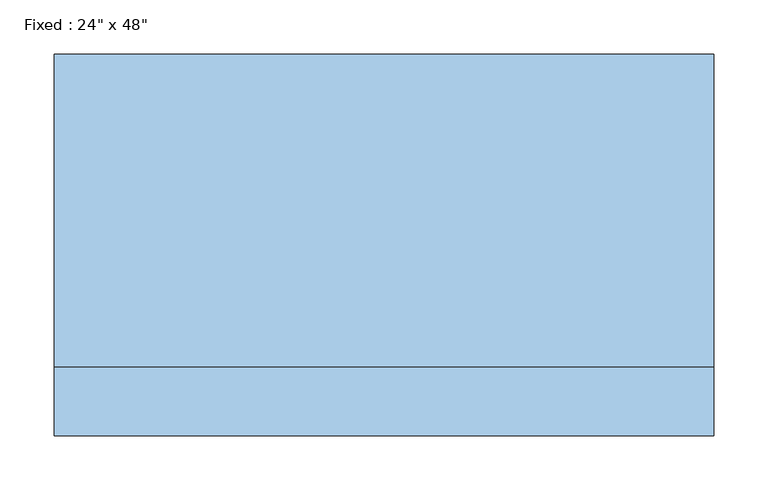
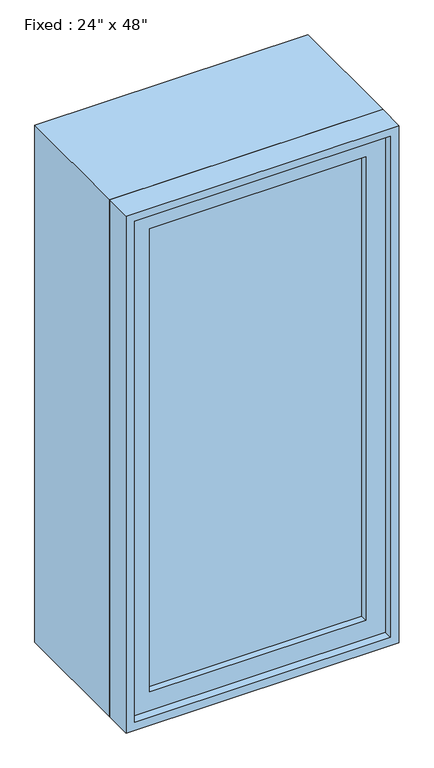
"""IFC4 building model written with IfcOpenShell, lengths in millimetres: window geometry."""

import ifcopenshell
import ifcopenshell.guid

model = None  # the IFC model being written
_history = None  # IfcOwnerHistory: only IFC2X3 demands one
_inside = {}  # id of a spatial element -> (the spatial element, [elements in it])
_under = {}  # id of a project, library or spatial element -> (it, [spatial elements below it])
_declared = {}  # id of a project -> (the project, [libraries it declares])
_typed = {}  # id of a type object -> (the type object, [elements of that type])
_made_of = {}  # id of a material, layer set ... -> (it, [elements and type objects made of it])


def new_model(schema):
    """Start an empty IFC model of exactly this schema.

    Asked for "IFC4X3", IfcOpenShell would pick the latest addendum, in which some entities
    have other attributes; the version numbers below select the first issue.
    IFC2X3 requires an IfcOwnerHistory on every rooted entity: one is made here for all.
    """
    global model, _history
    if schema == "IFC4X3":
        model = ifcopenshell.file(schema_version=(4, 3, 0, 0))
    else:
        model = ifcopenshell.file(schema=schema)
    _inside.clear()
    _under.clear()
    _declared.clear()
    _typed.clear()
    _made_of.clear()
    _history = None
    if model.schema == "IFC2X3":
        org = make("IfcOrganization", Name="unknown")
        user = make(
            "IfcPersonAndOrganization",
            ThePerson=make("IfcPerson", FamilyName="unknown"),
            TheOrganization=org,
        )
        app = make(
            "IfcApplication",
            ApplicationDeveloper=org,
            Version="unknown",
            ApplicationFullName="unknown",
            ApplicationIdentifier="unknown",
        )
        _history = make(
            "IfcOwnerHistory",
            OwningUser=user,
            OwningApplication=app,
            ChangeAction="ADDED",
            CreationDate=0,
        )
    return model


def make(cls, **values):
    """One entity of the class cls with the attributes given. An attribute that is None is left unset."""
    return model.create_entity(
        cls, **{name: value for name, value in values.items() if value is not None}
    )


def rooted(cls, **values):
    """An entity with a GlobalId (a new one), such as an element, a storey or a relation."""
    return make(cls, GlobalId=ifcopenshell.guid.new(), OwnerHistory=_history, **values)


def si_unit(unit_type, name, prefix=None):
    """IfcSIUnit, for example si_unit("LENGTHUNIT", "METRE", prefix="MILLI")."""
    return make("IfcSIUnit", UnitType=unit_type, Prefix=prefix, Name=name)


def assignment(units):
    """IfcUnitAssignment: the units of a project."""
    return None if units is None else make("IfcUnitAssignment", Units=units)


def point(xyz):
    """IfcCartesianPoint."""
    return None if xyz is None else make("IfcCartesianPoint", Coordinates=xyz)


def direction(xyz):
    """IfcDirection."""
    return None if xyz is None else make("IfcDirection", DirectionRatios=xyz)


def frame(location, z_axis=None, x_axis=None):
    """IfcAxis2Placement3D, a coordinate frame: its origin and axes. An axis left out is left unset."""
    return make(
        "IfcAxis2Placement3D",
        Location=point(location),
        Axis=direction(z_axis),
        RefDirection=direction(x_axis),
    )


def origin():
    """The frame at (0, 0, 0) with its axes left unset."""
    return frame((0.0, 0.0, 0.0))


def place(relative_to, where):
    """IfcLocalPlacement: puts the frame where relative to a parent placement (None: the world)."""
    return make(
        "IfcLocalPlacement", PlacementRelTo=relative_to, RelativePlacement=where
    )


def context(
    kind, dimensions, precision=None, world=None, true_north=None, identifier=None
):
    """IfcGeometricRepresentationContext, for example the 3D "Model" context."""
    return make(
        "IfcGeometricRepresentationContext",
        ContextIdentifier=identifier,
        ContextType=kind,
        CoordinateSpaceDimension=dimensions,
        Precision=precision,
        WorldCoordinateSystem=world,
        TrueNorth=true_north,
    )


def project(units=None, contexts=None):
    """IfcProject with its units and contexts."""
    return rooted(
        "IfcProject",
        Name="project",
        RepresentationContexts=contexts,
        UnitsInContext=assignment(units),
    )


def spatial(cls, under=None, at=None, **own):
    """A site, building, storey or space (cls), placed at a placement, below another one or the project."""
    s = rooted(cls, ObjectPlacement=at, **own)
    if under is not None:
        _under.setdefault(under.id(), (under, []))[1].append(s)
    return s


def polyline(points):
    """IfcPolyline through the points."""
    return make("IfcPolyline", Points=[point(p) for p in points])


def outline(outer, holes=None, kind="AREA"):
    """IfcArbitraryClosedProfileDef: a profile drawn as a closed curve; with holes, ...WithVoids."""
    if holes is None:
        return make("IfcArbitraryClosedProfileDef", ProfileType=kind, OuterCurve=outer)
    return make(
        "IfcArbitraryProfileDefWithVoids",
        ProfileType=kind,
        OuterCurve=outer,
        InnerCurves=holes,
    )


def extrude(swept, where, along, depth):
    """IfcExtrudedAreaSolid: the profile swept, set in the frame where, extruded along a direction by depth."""
    return make(
        "IfcExtrudedAreaSolid",
        SweptArea=swept,
        Position=where,
        ExtrudedDirection=direction(along),
        Depth=depth,
    )


def shape(context_of_items, identifier, shape_type, items):
    """IfcShapeRepresentation: the items that make up one representation, for example the "Body"."""
    return make(
        "IfcShapeRepresentation",
        ContextOfItems=context_of_items,
        RepresentationIdentifier=identifier,
        RepresentationType=shape_type,
        Items=items,
    )


def source(mapping_origin, context_of_items, identifier, shape_type, items):
    """IfcRepresentationMap: a shape defined once, which mapped items show again and again."""
    return make(
        "IfcRepresentationMap",
        MappingOrigin=mapping_origin,
        MappedRepresentation=shape(context_of_items, identifier, shape_type, items),
    )


def transform(
    local_origin,
    x_axis=None,
    y_axis=None,
    z_axis=None,
    scale=None,
    scale2=None,
    scale3=None,
    uniform=True,
):
    """IfcCartesianTransformationOperator3D, or its non-uniform kind. x_axis, y_axis, z_axis: its Axis1, 2, 3."""
    if uniform:
        return make(
            "IfcCartesianTransformationOperator3D",
            Axis1=direction(x_axis),
            Axis2=direction(y_axis),
            LocalOrigin=point(local_origin),
            Scale=scale,
            Axis3=direction(z_axis),
        )
    return make(
        "IfcCartesianTransformationOperator3DnonUniform",
        Axis1=direction(x_axis),
        Axis2=direction(y_axis),
        LocalOrigin=point(local_origin),
        Scale=scale,
        Axis3=direction(z_axis),
        Scale2=scale2,
        Scale3=scale3,
    )


def mapped(mapping_source, mapping_target):
    """IfcMappedItem: shows the shape of a source again, moved by a transform."""
    return make(
        "IfcMappedItem", MappingSource=mapping_source, MappingTarget=mapping_target
    )


def made_of(thing, what):
    """Note that an element or type object is made of a material, layer set ...; save() writes the relation."""
    if what is not None:
        _made_of.setdefault(what.id(), (what, []))[1].append(thing)
    return thing


def element(
    cls,
    number,
    at=None,
    inside=None,
    cuts=None,
    type_object=None,
    material=None,
    context=None,
    identifier="Body",
    shape_type=None,
    held_by="IfcProductDefinitionShape",
    body=None,
    shapes=None,
    **own,
):
    """One element of the class cls, such as IfcWall. Its Tag is "e" and its number.

    at: its placement. inside: the storey or other place that contains it. cuts: it is an
    opening in that element (IfcRelVoidsElement). A single representation is given by context,
    identifier, shape_type and body (its items); several are given by shapes. held_by: the class
    of the entity that holds the representations. save() writes the other relations.
    """
    e = rooted(cls, Tag="e%d" % number, ObjectPlacement=at, **own)
    if body is not None:
        shapes = [shape(context, identifier, shape_type, body)]
    if shapes is not None:
        e.Representation = make(held_by, Representations=shapes)
    if inside is not None:
        _inside.setdefault(inside.id(), (inside, []))[1].append(e)
    if cuts is not None:
        rooted(
            "IfcRelVoidsElement", RelatingBuildingElement=cuts, RelatedOpeningElement=e
        )
    if type_object is not None:
        _typed.setdefault(type_object.id(), (type_object, []))[1].append(e)
    return made_of(e, material)


def aggregate(whole, parts):
    """IfcRelAggregates: a whole, such as a stair, and the parts it consists of."""
    return rooted("IfcRelAggregates", RelatingObject=whole, RelatedObjects=parts)


def save(model, path):
    """Write the relations noted so far, then the file.

    IfcRelAggregates (storeys below a building ...), IfcRelContainedInSpatialStructure (elements
    in a storey), IfcRelDefinesByType, IfcRelAssociatesMaterial and IfcRelDeclares: one each for
    every whole, place, type object, material and project.
    """
    for whole, parts in _under.values():
        aggregate(whole, parts)
    for where, things in _inside.values():
        rooted(
            "IfcRelContainedInSpatialStructure",
            RelatedElements=things,
            RelatingStructure=where,
        )
    for kind, things in _typed.values():
        rooted("IfcRelDefinesByType", RelatedObjects=things, RelatingType=kind)
    for what, things in _made_of.values():
        rooted("IfcRelAssociatesMaterial", RelatedObjects=things, RelatingMaterial=what)
    for by, libraries in _declared.values():
        rooted("IfcRelDeclares", RelatingContext=by, RelatedDefinitions=libraries)
    model.write(path)


def window_ed80354a(model_context):
    return source(origin(), model_context, "Body", "SweptSolid", [
        extrude(outline(polyline([(203.2, -128.5875), (203.2, -141.2875), (-279.4, -141.2875), (-279.4, -128.5875), (203.2, -128.5875)])), frame((0.0, 0.0, 977.9), z_axis=(0.0, 0.0, 1.0), x_axis=(1.0, 0.0, 0.0)), (0.0, 0.0, 1.0), 1092.2),
        extrude(outline(polyline([(2114.55, -323.85), (933.45, -323.85), (933.45, 247.65), (2114.55, 247.65), (2114.55, -323.85)]), holes=[polyline([(2070.1, -279.4), (2070.1, 203.2), (977.9, 203.2), (977.9, -279.4), (2070.1, -279.4)])]), frame((0.0, -157.1625, 0.0), z_axis=(0.0, 1.0, 0.0), x_axis=(0.0, 0.0, 1.0)), (0.0, 0.0, 1.0), 44.45),
        extrude(outline(polyline([(2133.6, -342.9), (914.4, -342.9), (914.4, 266.7), (2133.6, 266.7), (2133.6, -342.9)]), holes=[polyline([(2101.85, -311.15), (2101.85, 234.95), (946.15, 234.95), (946.15, -311.15), (2101.85, -311.15)])]), frame((0.0, -112.7125, 0.0), z_axis=(0.0, 1.0, 0.0), x_axis=(0.0, 0.0, 1.0)), (0.0, 0.0, 1.0), 288.925),
        extrude(outline(polyline([(2133.6, 266.7), (2133.6, -342.9), (914.4, -342.9), (914.4, 266.7), (2133.6, 266.7)]), holes=[polyline([(2114.55, 247.65), (933.45, 247.65), (933.45, -323.85), (2114.55, -323.85), (2114.55, 247.65)])]), frame((0.0, -176.2125, 0.0), z_axis=(0.0, 1.0, 0.0), x_axis=(0.0, 0.0, 1.0)), (0.0, 0.0, 1.0), 63.5),
    ])


if __name__ == "__main__":
    model = new_model("IFC4")
    model_context = context("Model", 3, world=origin())
    ifc_project = project(units=[si_unit("LENGTHUNIT", "METRE", prefix="MILLI")], contexts=[model_context])
    site = spatial("IfcSite", under=ifc_project)
    building = spatial("IfcBuilding", under=site)
    placement = place(None, origin())
    window_shape = window_ed80354a(model_context)
    element("IfcWindow", 1, ObjectType="Fixed : 24\" x 48\"", at=placement, inside=building, context=model_context, shape_type="MappedRepresentation", body=[
        mapped(window_shape, transform((0.0, 0.0, 0.0), x_axis=(1.0, 0.0, 0.0), y_axis=(0.0, 1.0, 0.0), z_axis=(0.0, 0.0, 1.0))),
    ])
    save(model, "model.ifc")
